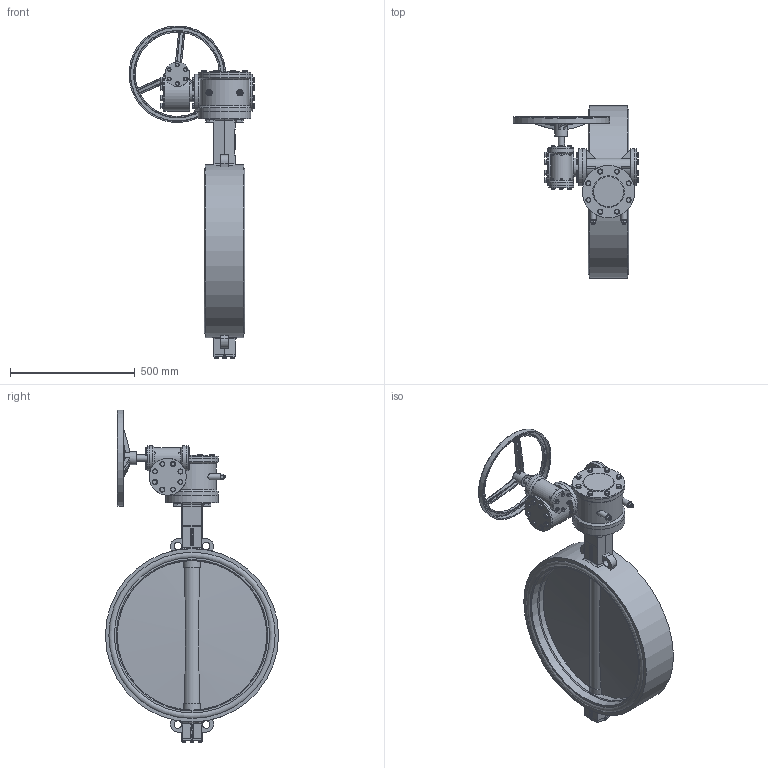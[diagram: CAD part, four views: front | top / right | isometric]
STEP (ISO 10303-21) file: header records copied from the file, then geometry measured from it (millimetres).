
FILE_DESCRIPTION(('STEP AP242'), '1');
FILE_NAME('Ïîâîðîòíûé çàòâîð ïîä ýëåêòðîïðèâîä', '', ('UNSPECIFIED'), ('UNSPECIFIED'), 'C3D Converter', 'C3D Toolkit', '');
FILE_SCHEMA(('AP242_MANAGED_MODEL_BASED_3D_ENGINEERING_MIM_LF { 1 0 10303 442 1 1 4 }'));
Length unit declared in the file: millimetre
Products named in the file (29): П; ШМ.М12.40
Assembly tree (130 placements, depth 3):
  (unnamed)
    (unnamed)
    П  x2
    (unnamed)
    (unnamed)
    (unnamed)
    (unnamed)
    (unnamed)  x4
    (unnamed)
      (unnamed)
      (unnamed)
      (unnamed)  x2
      (unnamed)
      (unnamed)
      (unnamed)
      (unnamed)
      (unnamed)
      (unnamed)  x2
      (unnamed)  x2
      (unnamed)  x32
      (unnamed)  x16
      (unnamed)  x8
      (unnamed)  x8
      ШМ.М12.40  x8
      (unnamed)  x12
      (unnamed)  x12
      (unnamed)
    (unnamed)  x4
    (unnamed)  x4
Bounding box: 505.04 x 695 x 1332.04 mm (x, y, z)
Volume: 38951985.1 mm3; surface area: 3892747.4 mm2
Topology: 129 solids, 129 shells, 1738 faces, 3794 edges, 2422 vertices
Faces by surface type: plane 923, cylinder 358, cone 171, extrusion 159, torus 62, bspline 61, sphere 4
Full cylindrical faces by diameter (mm): 6 x2, 8 x40, 8.4 x12, 10 x12, 10.647 x10, 12 x100, 13 x32, 15 x12, 16 x8, 18.845 x1, 20 x36, 21 x4, 22 x8, 24 x2, 26 x4, 30 x4, 34 x4, 46 x6, 51 x1, 65.054 x5, 73.15 x4, 73.5 x2, 99 x4, 121 x1, 148.5 x6, 195 x1, 210 x4, 338 x1, 348 x1, 378 x1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
Entity records: 46925 total; most frequent: CARTESIAN_POINT 22374, ORIENTED_EDGE 3658, DIRECTION 3406, EDGE_CURVE 1829, EDGE_LOOP 1340, VERTEX_POINT 1337, AXIS2_PLACEMENT_3D 1278, FACE_BOUND 923
